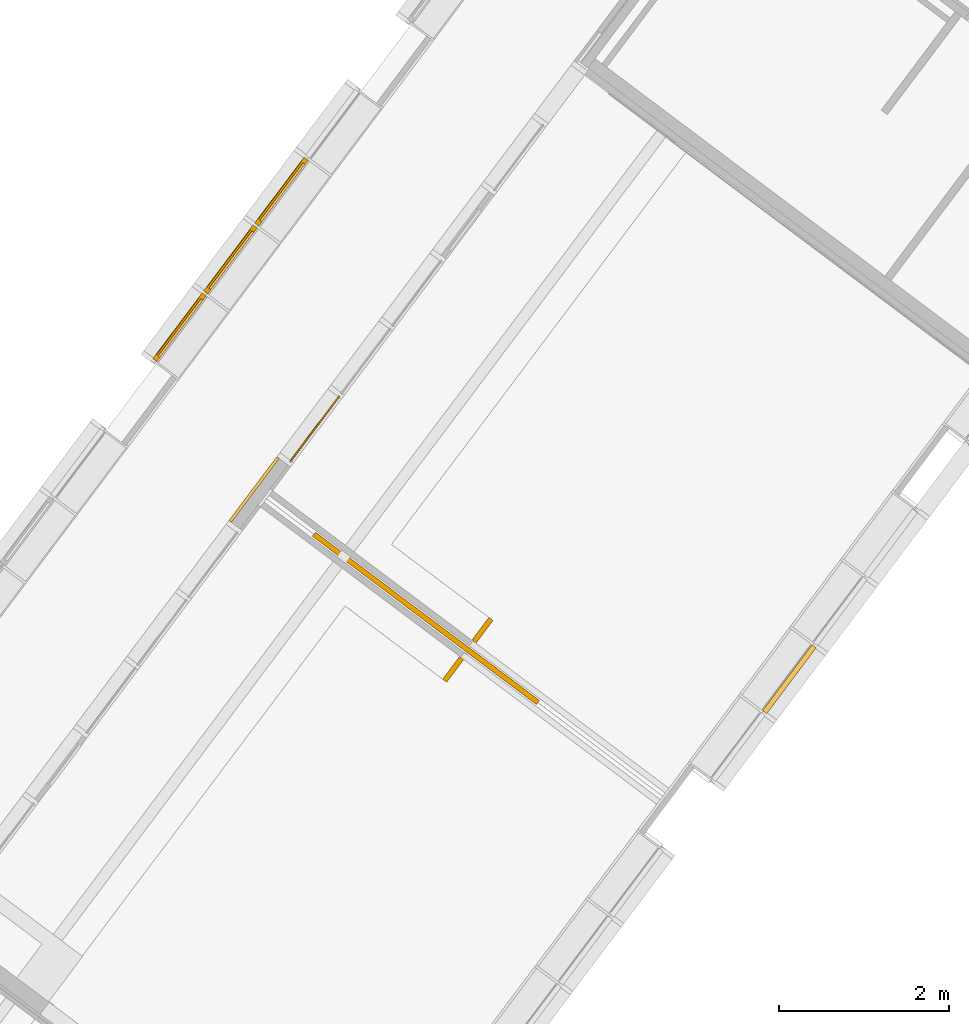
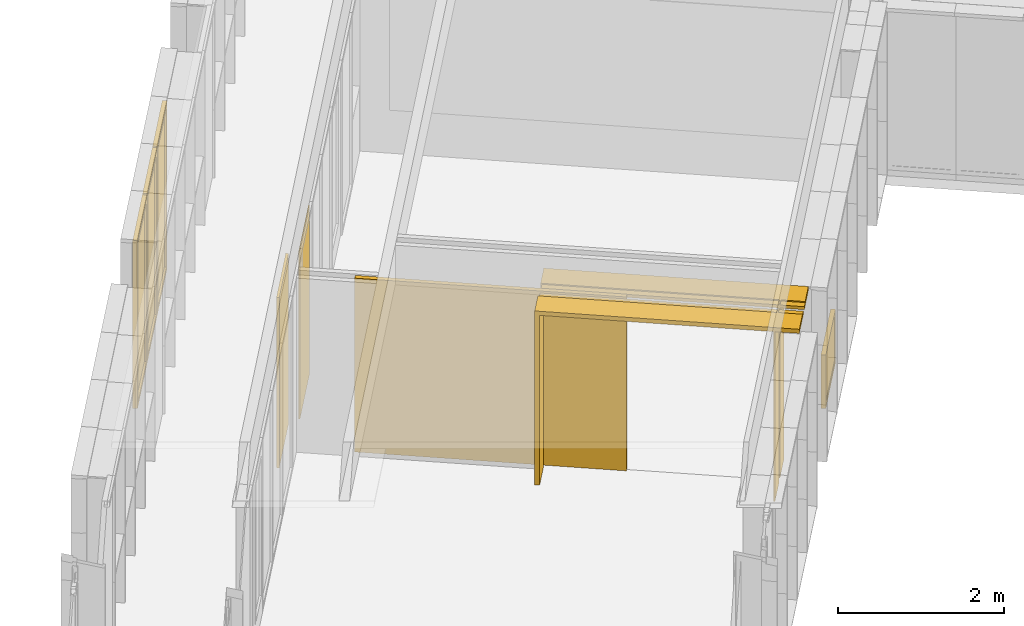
# One storey, part 200 of 243: 5 windows, 1 curtain wall, 1 door, 3 elements without a shape of their own.
"""IFC2X3 building model written with IfcOpenShell, lengths in metres."""

from ifc_helpers import new_model, entity, si_unit, converted_unit, derived_unit, direction, frame, frame_2d, origin, origin_2d_with_axis, place, context, subcontext, project, spatial, rectangle, extrude, faceted_brep, source, transform, mapped, material, material_list, layer, layer_set, layer_usage, type_object, type_shapes, element, aggregate, save


model = new_model("IFC2X3")

# Units and contexts
model_context = context("Model", 3, precision=1e-05, world=origin(), true_north=direction((6.123031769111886e-17, 1.0)))
body_context = subcontext(model_context, "Body", "Model", "MODEL_VIEW")
ifc_project = project(units=[si_unit("LENGTHUNIT", "METRE"), si_unit("AREAUNIT", "SQUARE_METRE"), si_unit("VOLUMEUNIT", "CUBIC_METRE"), converted_unit("PLANEANGLEUNIT", "DEGREE", entity("IfcRatioMeasure", 0.017453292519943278), si_unit("PLANEANGLEUNIT", "RADIAN"), dimensions=[0, 0, 0, 0, 0, 0, 0]), si_unit("MASSUNIT", "GRAM", prefix="KILO"), derived_unit("MASSDENSITYUNIT", [(si_unit("MASSUNIT", "GRAM", prefix="KILO"), 1), (si_unit("LENGTHUNIT", "METRE"), -3)]), derived_unit("IONCONCENTRATIONUNIT", [(si_unit("MASSUNIT", "GRAM", prefix="KILO"), 1), (si_unit("LENGTHUNIT", "METRE"), -3)]), derived_unit("MOMENTOFINERTIAUNIT", [(si_unit("LENGTHUNIT", "METRE"), 4)]), si_unit("TIMEUNIT", "SECOND"), si_unit("FREQUENCYUNIT", "HERTZ"), si_unit("THERMODYNAMICTEMPERATUREUNIT", "DEGREE_CELSIUS"), derived_unit("THERMALTRANSMITTANCEUNIT", [(si_unit("MASSUNIT", "GRAM", prefix="KILO"), 1), (si_unit("THERMODYNAMICTEMPERATUREUNIT", "KELVIN"), -1), (si_unit("TIMEUNIT", "SECOND"), -3)]), derived_unit("THERMALCONDUCTANCEUNIT", [(si_unit("MASSUNIT", "GRAM", prefix="KILO"), 1), (si_unit("THERMODYNAMICTEMPERATUREUNIT", "KELVIN"), -1), (si_unit("TIMEUNIT", "SECOND"), -3), (si_unit("LENGTHUNIT", "METRE"), 1)]), derived_unit("VOLUMETRICFLOWRATEUNIT", [(si_unit("LENGTHUNIT", "METRE"), 3), (si_unit("TIMEUNIT", "SECOND"), -1)]), derived_unit("MASSFLOWRATEUNIT", [(si_unit("MASSUNIT", "GRAM", prefix="KILO"), 1), (si_unit("TIMEUNIT", "SECOND"), -1)]), derived_unit("ROTATIONALFREQUENCYUNIT", [(si_unit("TIMEUNIT", "SECOND"), -1)]), si_unit("ELECTRICCURRENTUNIT", "AMPERE"), si_unit("ELECTRICVOLTAGEUNIT", "VOLT"), si_unit("POWERUNIT", "WATT"), si_unit("FORCEUNIT", "NEWTON", prefix="KILO"), si_unit("ILLUMINANCEUNIT", "LUX"), si_unit("LUMINOUSFLUXUNIT", "LUMEN"), si_unit("LUMINOUSINTENSITYUNIT", "CANDELA"), derived_unit("USERDEFINED", [(si_unit("MASSUNIT", "GRAM", prefix="KILO"), -1), (si_unit("LENGTHUNIT", "METRE"), -2), (si_unit("TIMEUNIT", "SECOND"), 3), (si_unit("LUMINOUSFLUXUNIT", "LUMEN"), 1)]), derived_unit("USERDEFINED", [(si_unit("MASSUNIT", "GRAM", prefix="KILO"), 1), (si_unit("TIMEUNIT", "SECOND"), -3), (si_unit("LENGTHUNIT", "METRE"), 3), (si_unit("ELECTRICCURRENTUNIT", "AMPERE"), -2)]), derived_unit("SOUNDPOWERUNIT", [(si_unit("MASSUNIT", "GRAM", prefix="KILO"), 1), (si_unit("TIMEUNIT", "SECOND"), -3), (si_unit("LENGTHUNIT", "METRE"), 2)]), derived_unit("SOUNDPRESSUREUNIT", [(si_unit("MASSUNIT", "GRAM", prefix="KILO"), 1), (si_unit("LENGTHUNIT", "METRE"), -1), (si_unit("TIMEUNIT", "SECOND"), -2)]), derived_unit("LINEARVELOCITYUNIT", [(si_unit("LENGTHUNIT", "METRE"), 1), (si_unit("TIMEUNIT", "SECOND"), -1)]), si_unit("PRESSUREUNIT", "PASCAL"), derived_unit("USERDEFINED", [(si_unit("MASSUNIT", "GRAM", prefix="KILO"), 1), (si_unit("LENGTHUNIT", "METRE"), -2), (si_unit("TIMEUNIT", "SECOND"), -2)]), derived_unit("LINEARFORCEUNIT", [(si_unit("MASSUNIT", "GRAM", prefix="KILO"), 1), (si_unit("TIMEUNIT", "SECOND"), -2)]), derived_unit("PLANARFORCEUNIT", [(si_unit("MASSUNIT", "GRAM", prefix="KILO"), 1), (si_unit("LENGTHUNIT", "METRE"), -1), (si_unit("TIMEUNIT", "SECOND"), -2)]), derived_unit("SPECIFICHEATCAPACITYUNIT", [(si_unit("THERMODYNAMICTEMPERATUREUNIT", "KELVIN"), -1), (si_unit("LENGTHUNIT", "METRE"), 2), (si_unit("TIMEUNIT", "SECOND"), -2)]), derived_unit("HEATINGVALUEUNIT", [(si_unit("LENGTHUNIT", "METRE"), 2), (si_unit("TIMEUNIT", "SECOND"), -2)]), derived_unit("VAPORPERMEABILITYUNIT", [(si_unit("LENGTHUNIT", "METRE"), -1), (si_unit("TIMEUNIT", "SECOND"), 1)]), derived_unit("DYNAMICVISCOSITYUNIT", [(si_unit("MASSUNIT", "GRAM", prefix="KILO"), 1), (si_unit("TIMEUNIT", "SECOND"), -1), (si_unit("LENGTHUNIT", "METRE"), -1)]), derived_unit("THERMALEXPANSIONCOEFFICIENTUNIT", [(si_unit("THERMODYNAMICTEMPERATUREUNIT", "KELVIN"), -1)]), derived_unit("MODULUSOFELASTICITYUNIT", [(si_unit("MASSUNIT", "GRAM", prefix="KILO"), 1), (si_unit("LENGTHUNIT", "METRE"), -1), (si_unit("TIMEUNIT", "SECOND"), -2)]), derived_unit("ISOTHERMALMOISTURECAPACITYUNIT", [(si_unit("LENGTHUNIT", "METRE"), 3), (si_unit("MASSUNIT", "GRAM", prefix="KILO"), -1)]), derived_unit("MOISTUREDIFFUSIVITYUNIT", [(si_unit("TIMEUNIT", "SECOND"), -1), (si_unit("LENGTHUNIT", "METRE"), 2)])], contexts=[model_context])

# Site, building, storey
site_placement = place(None, frame((0.0, 0.0, 235.0), z_axis=(0.0, 0.0, 1.0), x_axis=(-0.7996477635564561, 0.6004693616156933, 0.0)))
site = spatial("IfcSite", under=ifc_project, at=site_placement, Name="Default", CompositionType="ELEMENT")
building_placement = place(site_placement, origin())
building = spatial("IfcBuilding", under=site, at=building_placement, CompositionType="ELEMENT")
storey_placement = place(building_placement, origin())
storey = spatial("IfcBuildingStorey", under=building, at=storey_placement, Name="P0- Escola", CompositionType="ELEMENT", Elevation=0.0)

# Curtain walls, window
curtain_wall_type_1 = type_object("IfcCurtainWallType", Name="Muro cortina:MC- INT- a1", PredefinedType="NOTDEFINED")
curtain_wall_1_placement = place(storey_placement, origin())
curtain_wall_1 = element("IfcCurtainWall", 1, at=curtain_wall_1_placement, inside=storey, type_object=curtain_wall_type_1, Name="Muro cortina:MC- INT- a1", ObjectType="Muro cortina:MC- INT- a1")
ifc_material_1 = material(Name="_Fusta massisa- T1-  REV- PAV")
ifc_layer_1 = layer(ifc_material_1, 0.015)
ifc_material_2 = material(Name="_Genèric perfils, muntants, rastrells")
ifc_layer_2 = layer(ifc_material_2, 0.02)
ifc_layer_set = layer_set([ifc_layer_1, ifc_layer_2], Name="Muro básico:REV- Fusta- T1- 3,5 cm")
ifc_layer_usage = layer_usage(ifc_layer_set, "AXIS2", "NEGATIVE", 0.0175)
curtain_wall_type_2 = type_object("IfcCurtainWallType", Name="Muro básico:REV- Fusta- T1- 3,5 cm", PredefinedType="NOTDEFINED", material=ifc_layer_set)
curtain_wall_2_placement = place(storey_placement, frame((72.862647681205, -29.445189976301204, 0.0), z_axis=(0.0, 0.0, 1.0), x_axis=(0.0, -1.0, 0.0)))
curtain_wall_2 = element("IfcCurtainWall", 2, at=curtain_wall_2_placement, type_object=curtain_wall_type_2, material=ifc_layer_usage, Name="Muro básico:REV- Fusta- T1- 3,5 cm", ObjectType="Muro básico:REV- Fusta- T1- 3,5 cm", context=body_context, shape_type="SweptSolid", body=[
    extrude(rectangle(XDim=0.03500000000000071, YDim=0.9399999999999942, at=frame_2d((-4.331604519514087e-15, 0.0), x_axis=(1.0, 0.0))), frame((0.4699999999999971, 0.0, 0.0), z_axis=(0.0, 0.0, 1.0), x_axis=(0.0, 1.0, 0.0)), (0.0, 0.0, 1.0), 2.5050000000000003),
])
ifc_material_3 = material(Name="_Vidre")
window_style_1 = type_object("IfcWindowStyle", Name="MC- Fusta- vidre fix:MC- Fusta- vidre fix", ConstructionType="NOTDEFINED", OperationType="NOTDEFINED", ParameterTakesPrecedence=False, Sizeable=False, material=ifc_material_3)
shared_shape_1 = source(origin(), body_context, "Body", "SweptSolid", [
    extrude(rectangle(XDim=0.9699999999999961, YDim=0.015999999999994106, at=origin_2d_with_axis()), frame((0.0, 0.0, 0.0), z_axis=(0.0, 0.0, 1.0), x_axis=(-1.0, 0.0, 0.0)), (0.0, 0.0, 1.0), 2.475),
])
type_shapes(window_style_1, [shared_shape_1])
window_1_placement = place(curtain_wall_1_placement, frame((72.720147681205, -30.915189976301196, 0.045000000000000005), z_axis=(0.0, 0.0, 1.0), x_axis=(0.0, -1.0, 0.0)))
window_1 = element("IfcWindow", 3, at=window_1_placement, type_object=window_style_1, material=ifc_material_3, Name="MC- Fusta- vidre fix:MC- Fusta- vidre fix", ObjectType="MC- Fusta- vidre fix:MC- Fusta- vidre fix", OverallHeight=2.475, OverallWidth=0.9699999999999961, context=body_context, shape_type="MappedRepresentation", body=[
    mapped(shared_shape_1, transform((0.0, 0.0, 0.0), scale=1.0)),
])
aggregate(curtain_wall_1, [curtain_wall_2, window_1])

# Curtain wall, window
curtain_wall_type_3 = type_object("IfcCurtainWallType", Name="Muro cortina:MC- EXT- MC2", PredefinedType="NOTDEFINED")
curtain_wall_3_placement = place(storey_placement, origin())
curtain_wall_3 = element("IfcCurtainWall", 4, at=curtain_wall_3_placement, inside=storey, type_object=curtain_wall_type_3, Name="Muro cortina:MC- EXT- MC2", ObjectType="Muro cortina:MC- EXT- MC2")
ifc_material_4 = material(Name="_Alumini- T1- Perfil")
ifc_material_list_1 = material_list([ifc_material_3, ifc_material_4])
window_style_2 = type_object("IfcWindowStyle", Name="MC- Alu- Conjunt vidre fix- 62x60 cm:MC- Alu- Conjunt vidre fix- 62x60 cm", ConstructionType="NOTDEFINED", OperationType="NOTDEFINED", ParameterTakesPrecedence=False, Sizeable=False, material=ifc_material_list_1)
shared_shape_2 = source(origin(), body_context, "Body", "Brep", [
    faceted_brep([(0.4361932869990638, -0.007600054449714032, 0.048806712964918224), (0.4361932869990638, -0.03160022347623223, 0.048806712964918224), (-0.4361932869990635, -0.03160022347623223, 0.048806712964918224), (-0.4361932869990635, -0.007600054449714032, 0.048806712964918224), (0.4361932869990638, -0.007600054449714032, 0.7387000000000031), (-0.4361932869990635, -0.007600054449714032, 0.7387000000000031), (-0.4361932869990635, -0.03160022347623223, 0.7387000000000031), (0.4361932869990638, -0.03160022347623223, 0.7387000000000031)], [[[0, 1, 2, 3]], [[4, 0, 3, 5]], [[5, 3, 2, 6]], [[6, 2, 1, 7]], [[7, 1, 0, 4]], [[4, 5, 6, 7]]]),
    faceted_brep([(0.48499999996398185, -0.05999999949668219, 0.7877000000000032), (0.48499999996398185, -0.05999999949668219, 0.0), (0.48499999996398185, 0.0, 0.0), (0.48499999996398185, 0.0, 0.787700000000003), (-0.48499999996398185, 0.0, 0.7877000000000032), (-0.48499999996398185, 0.0, 0.0), (0.4221931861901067, 0.0, 0.7248931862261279), (-0.42219318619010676, 0.0, 0.724893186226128), (-0.4221931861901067, 0.0, 0.0628068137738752), (0.4221931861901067, 0.0, 0.06280681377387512), (-0.48499999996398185, -0.05999999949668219, 0.0), (-0.48499999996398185, -0.05999999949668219, 0.7877000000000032), (-0.42219603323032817, -0.05999999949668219, 0.7248960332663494), (0.42219603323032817, -0.05999999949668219, 0.7248960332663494), (0.42219603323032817, -0.05999999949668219, 0.0628039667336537), (-0.42219603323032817, -0.05999999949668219, 0.0628039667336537), (0.4221960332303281, -0.03160022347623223, 0.7248960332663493), (0.42219603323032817, -0.03160022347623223, 0.0628039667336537), (-0.42219603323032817, -0.03160022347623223, 0.06280396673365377), (-0.42219603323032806, -0.03160022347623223, 0.7248960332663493), (-0.43619328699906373, -0.03160022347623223, 0.738893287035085), (0.43619328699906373, -0.03160022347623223, 0.738893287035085), (0.43619328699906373, -0.03160022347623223, 0.048806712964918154), (-0.43619328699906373, -0.03160022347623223, 0.04880671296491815), (0.43619328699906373, -0.007600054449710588, 0.738893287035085), (0.43619328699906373, -0.007600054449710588, 0.04880671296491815), (-0.43619328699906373, -0.007600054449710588, 0.048806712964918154), (-0.43619328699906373, -0.007600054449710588, 0.738893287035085), (-0.42219318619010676, -0.007600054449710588, 0.724893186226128), (0.42219318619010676, -0.007600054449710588, 0.724893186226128), (0.42219318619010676, -0.007600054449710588, 0.06280681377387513), (-0.42219318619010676, -0.007600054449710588, 0.06280681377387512)], [[[0, 1, 2, 3]], [[4, 3, 2, 5], [6, 7, 8, 9]], [[1, 10, 5, 2]], [[0, 11, 10, 1], [12, 13, 14, 15]], [[16, 17, 14, 13]], [[17, 18, 15, 14]], [[16, 19, 18, 17], [20, 21, 22, 23]], [[24, 25, 22, 21]], [[25, 26, 23, 22]], [[24, 27, 26, 25], [28, 29, 30, 31]], [[6, 9, 30, 29]], [[9, 8, 31, 30]], [[10, 11, 4, 5]], [[18, 19, 12, 15]], [[26, 27, 20, 23]], [[8, 7, 28, 31]], [[11, 0, 3, 4]], [[19, 16, 13, 12]], [[27, 24, 21, 20]], [[7, 6, 29, 28]]], outer=[[True], [True, False], [True], [True, False], [True], [True], [False, True], [True], [True], [True, False], [True], [True], [True], [True], [True], [True], [True], [True], [True], [True]]),
])
type_shapes(window_style_2, [shared_shape_2])
window_2_placement = place(curtain_wall_3_placement, frame((66.44514768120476, -31.915191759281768, 0.03229999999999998), z_axis=(0.0, 0.0, 1.0), x_axis=(0.0, 1.0, 0.0)))
window_2 = element("IfcWindow", 5, at=window_2_placement, type_object=window_style_2, material=ifc_material_list_1, Name="MC- Alu- Conjunt vidre fix- 62x60 cm:MC- Alu- Conjunt vidre fix- 62x60 cm", ObjectType="MC- Alu- Conjunt vidre fix- 62x60 cm:MC- Alu- Conjunt vidre fix- 62x60 cm", OverallHeight=0.7877000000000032, OverallWidth=0.9699999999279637, context=body_context, shape_type="MappedRepresentation", body=[
    mapped(shared_shape_2, transform((0.0, 0.0, 0.0), scale=1.0)),
])
aggregate(curtain_wall_3, [window_2])

# Curtain wall, windows
curtain_wall_type_4 = type_object("IfcCurtainWallType", Name="Muro cortina:MC- EXT- MC5", PredefinedType="NOTDEFINED")
curtain_wall_4_placement = place(storey_placement, origin())
curtain_wall_4 = element("IfcCurtainWall", 6, at=curtain_wall_4_placement, inside=storey, type_object=curtain_wall_type_4, Name="Muro cortina:MC- EXT- MC5", ObjectType="Muro cortina:MC- EXT- MC5")
window_style_3 = type_object("IfcWindowStyle", Name="MC- Alu- Conjunt vidre fix- 62x60 cm:MC- Alu- Conjunt vidre fix- 62x60 cm", ConstructionType="NOTDEFINED", OperationType="NOTDEFINED", ParameterTakesPrecedence=False, Sizeable=False, material=ifc_material_list_1)
shared_shape_3 = source(origin(), body_context, "Body", "Brep", [
    faceted_brep([(-0.43619328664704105, -0.007600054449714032, 0.048806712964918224), (0.43619328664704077, -0.007600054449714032, 0.048806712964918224), (0.43619328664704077, -0.03160022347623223, 0.048806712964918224), (-0.43619328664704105, -0.03160022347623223, 0.048806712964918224), (-0.43619328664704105, -0.007600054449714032, 2.422449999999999), (0.43619328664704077, -0.007600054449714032, 2.422449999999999), (0.43619328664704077, -0.03160022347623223, 2.422449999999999), (-0.43619328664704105, -0.03160022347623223, 2.422449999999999)], [[[0, 1, 2, 3]], [[4, 5, 1, 0]], [[5, 6, 2, 1]], [[6, 7, 3, 2]], [[7, 4, 0, 3]], [[4, 7, 6, 5]]]),
    faceted_brep([(-0.4849999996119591, -0.05999999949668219, 2.471449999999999), (-0.4849999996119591, 0.0, 2.471449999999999), (-0.4849999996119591, 0.0, 0.0), (-0.48499999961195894, -0.05999999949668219, 0.0), (-0.4221931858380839, 0.0, 2.408643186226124), (-0.4221931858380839, 0.0, 0.06280681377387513), (0.42219318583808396, 0.0, 0.06280681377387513), (0.422193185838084, 0.0, 2.408643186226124), (0.4849999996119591, 0.0, 2.471449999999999), (0.4849999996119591, 0.0, 0.0), (0.48499999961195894, -0.05999999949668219, 0.0), (0.4849999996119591, -0.05999999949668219, 2.471449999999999), (0.42219603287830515, -0.05999999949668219, 2.408646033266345), (0.42219603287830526, -0.05999999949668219, 0.06280396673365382), (-0.42219603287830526, -0.05999999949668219, 0.06280396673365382), (-0.42219603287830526, -0.05999999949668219, 2.4086460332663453), (-0.42219603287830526, -0.03160022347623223, 2.4086460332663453), (-0.4221960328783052, -0.03160022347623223, 0.06280396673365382), (0.4221960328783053, -0.03160022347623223, 0.06280396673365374), (0.42219603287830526, -0.03160022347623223, 2.4086460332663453), (0.43619328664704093, -0.03160022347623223, 2.422643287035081), (0.43619328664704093, -0.03160022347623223, 0.048806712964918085), (-0.4361932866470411, -0.03160022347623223, 0.04880671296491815), (-0.43619328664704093, -0.03160022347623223, 2.422643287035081), (-0.43619328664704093, -0.007600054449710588, 2.422643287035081), (-0.4361932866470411, -0.007600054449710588, 0.04880671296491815), (0.43619328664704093, -0.007600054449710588, 0.048806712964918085), (0.43619328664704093, -0.007600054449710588, 2.422643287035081), (0.42219318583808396, -0.007600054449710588, 2.408643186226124), (0.42219318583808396, -0.007600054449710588, 0.06280681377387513), (-0.42219318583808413, -0.007600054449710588, 0.06280681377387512), (-0.4221931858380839, -0.007600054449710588, 2.408643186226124)], [[[0, 1, 2, 3]], [[4, 5, 6, 7], [8, 9, 2, 1]], [[3, 2, 9, 10]], [[0, 3, 10, 11], [12, 13, 14, 15]], [[16, 15, 14, 17]], [[17, 14, 13, 18]], [[16, 17, 18, 19], [20, 21, 22, 23]], [[24, 23, 22, 25]], [[25, 22, 21, 26]], [[24, 25, 26, 27], [28, 29, 30, 31]], [[4, 31, 30, 5]], [[5, 30, 29, 6]], [[10, 9, 8, 11]], [[18, 13, 12, 19]], [[26, 21, 20, 27]], [[6, 29, 28, 7]], [[11, 8, 1, 0]], [[19, 12, 15, 16]], [[27, 20, 23, 24]], [[7, 28, 31, 4]]], outer=[[True], [False, True], [True], [True, False], [True], [True], [False, True], [True], [True], [True, False], [True], [True], [True], [True], [True], [True], [True], [True], [True], [True]]),
])
type_shapes(window_style_3, [shared_shape_3])
window_3_placement = place(curtain_wall_4_placement, frame((74.74514768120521, -31.915191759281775, 0.03229999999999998), z_axis=(0.0, 0.0, 1.0), x_axis=(0.0, -1.0, 0.0)))
window_3 = element("IfcWindow", 7, at=window_3_placement, type_object=window_style_3, material=ifc_material_list_1, Name="MC- Alu- Conjunt vidre fix- 62x60 cm:MC- Alu- Conjunt vidre fix- 62x60 cm", ObjectType="MC- Alu- Conjunt vidre fix- 62x60 cm:MC- Alu- Conjunt vidre fix- 62x60 cm", OverallHeight=2.471449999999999, OverallWidth=0.9699999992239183, context=body_context, shape_type="MappedRepresentation", body=[
    mapped(shared_shape_3, transform((0.0, 0.0, 0.0), scale=1.0)),
])
window_4_placement = place(curtain_wall_4_placement, frame((74.74514768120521, -32.91519175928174, 0.03229999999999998), z_axis=(0.0, 0.0, 1.0), x_axis=(0.0, -1.0, 0.0)))
window_4 = element("IfcWindow", 8, at=window_4_placement, type_object=window_style_3, material=ifc_material_list_1, Name="MC- Alu- Conjunt vidre fix- 62x60 cm:MC- Alu- Conjunt vidre fix- 62x60 cm", ObjectType="MC- Alu- Conjunt vidre fix- 62x60 cm:MC- Alu- Conjunt vidre fix- 62x60 cm", OverallHeight=2.471449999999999, OverallWidth=0.9699999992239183, context=body_context, shape_type="MappedRepresentation", body=[
    mapped(shared_shape_3, transform((0.0, 0.0, 0.0), scale=1.0)),
])
window_style_4 = type_object("IfcWindowStyle", Name="MC- Alu- Conjunt vidre fix- 62x60 cm:MC- Alu- Conjunt vidre fix- 62x60 cm", ConstructionType="NOTDEFINED", OperationType="NOTDEFINED", ParameterTakesPrecedence=False, Sizeable=False, material=ifc_material_list_1)
shared_shape_4 = source(origin(), body_context, "Body", "Brep", [
    faceted_brep([(0.43619328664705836, -0.007600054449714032, 0.048806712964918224), (0.43619328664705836, -0.03160022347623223, 0.048806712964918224), (-0.4361932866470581, -0.03160022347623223, 0.048806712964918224), (-0.4361932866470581, -0.007600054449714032, 0.048806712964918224), (0.43619328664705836, -0.007600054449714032, 2.422449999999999), (-0.4361932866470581, -0.007600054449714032, 2.422449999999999), (-0.4361932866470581, -0.03160022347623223, 2.422449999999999), (0.43619328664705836, -0.03160022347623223, 2.422449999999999)], [[[0, 1, 2, 3]], [[4, 0, 3, 5]], [[5, 3, 2, 6]], [[6, 2, 1, 7]], [[7, 1, 0, 4]], [[4, 5, 6, 7]]]),
    faceted_brep([(0.48499999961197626, -0.05999999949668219, 2.471449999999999), (0.48499999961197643, -0.05999999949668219, 0.0), (0.48499999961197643, 0.0, 0.0), (0.48499999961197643, 0.0, 2.471449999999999), (-0.48499999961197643, 0.0, 2.471449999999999), (-0.48499999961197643, 0.0, 0.0), (0.4221931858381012, 0.0, 2.408643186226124), (-0.4221931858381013, 0.0, 2.408643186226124), (-0.4221931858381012, 0.0, 0.06280681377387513), (0.4221931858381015, 0.0, 0.06280681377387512), (-0.48499999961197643, -0.05999999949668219, 0.0), (-0.4849999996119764, -0.05999999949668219, 2.471449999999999), (-0.4221960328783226, -0.05999999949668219, 2.4086460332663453), (0.4221960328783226, -0.05999999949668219, 2.4086460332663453), (0.4221960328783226, -0.05999999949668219, 0.06280396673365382), (-0.4221960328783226, -0.05999999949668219, 0.06280396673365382), (0.42219603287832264, -0.03160022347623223, 2.4086460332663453), (0.4221960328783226, -0.03160022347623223, 0.06280396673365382), (-0.4221960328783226, -0.03160022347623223, 0.06280396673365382), (-0.4221960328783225, -0.03160022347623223, 2.4086460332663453), (-0.43619328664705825, -0.03160022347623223, 2.422643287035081), (0.43619328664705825, -0.03160022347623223, 2.422643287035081), (0.43619328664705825, -0.03160022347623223, 0.048806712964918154), (-0.43619328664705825, -0.03160022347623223, 0.04880671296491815), (0.43619328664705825, -0.007600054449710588, 2.422643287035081), (0.4361932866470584, -0.007600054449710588, 0.04880671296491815), (-0.43619328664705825, -0.007600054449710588, 0.048806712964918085), (-0.43619328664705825, -0.007600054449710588, 2.422643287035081), (-0.4221931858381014, -0.007600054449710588, 2.408643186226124), (0.4221931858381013, -0.007600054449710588, 2.408643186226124), (0.4221931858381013, -0.007600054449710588, 0.06280681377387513), (-0.4221931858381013, -0.007600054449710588, 0.06280681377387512)], [[[0, 1, 2, 3]], [[4, 3, 2, 5], [6, 7, 8, 9]], [[1, 10, 5, 2]], [[0, 11, 10, 1], [12, 13, 14, 15]], [[16, 17, 14, 13]], [[17, 18, 15, 14]], [[16, 19, 18, 17], [20, 21, 22, 23]], [[24, 25, 22, 21]], [[25, 26, 23, 22]], [[24, 27, 26, 25], [28, 29, 30, 31]], [[6, 9, 30, 29]], [[9, 8, 31, 30]], [[10, 11, 4, 5]], [[18, 19, 12, 15]], [[26, 27, 20, 23]], [[8, 7, 28, 31]], [[11, 0, 3, 4]], [[19, 16, 13, 12]], [[27, 24, 21, 20]], [[7, 6, 29, 28]]], outer=[[True], [True, False], [True], [True, False], [True], [True], [False, True], [True], [True], [True, False], [True], [True], [True], [True], [True], [True], [True], [True], [True], [True]]),
])
type_shapes(window_style_4, [shared_shape_4])
window_5_placement = place(curtain_wall_4_placement, frame((74.74514768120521, -30.915191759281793, 0.03229999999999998), z_axis=(0.0, 0.0, 1.0), x_axis=(0.0, -1.0, 0.0)))
window_5 = element("IfcWindow", 9, at=window_5_placement, type_object=window_style_4, material=ifc_material_list_1, Name="MC- Alu- Conjunt vidre fix- 62x60 cm:MC- Alu- Conjunt vidre fix- 62x60 cm", ObjectType="MC- Alu- Conjunt vidre fix- 62x60 cm:MC- Alu- Conjunt vidre fix- 62x60 cm", OverallHeight=2.471449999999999, OverallWidth=0.969999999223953, context=body_context, shape_type="MappedRepresentation", body=[
    mapped(shared_shape_4, transform((0.0, 0.0, 0.0), scale=1.0)),
])
aggregate(curtain_wall_4, [window_5, window_3, window_4])

# Door
ifc_material_5 = material(Name="_Fusta massisa- T1")
ifc_material_list_2 = material_list([ifc_material_2, ifc_material_5])
door_style = type_object("IfcDoorStyle", Name="FUS- Fusta- Porta corredera aules:FUS- Fusta- Porta corredera aules", ConstructionType="NOTDEFINED", OperationType="NOTDEFINED", ParameterTakesPrecedence=False, Sizeable=False, material=ifc_material_list_2)
shared_shape_5 = source(origin(), body_context, "Body", "Brep", [
    faceted_brep([(1.0619099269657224, 0.022981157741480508, 2.560000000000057), (-2.2396091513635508, 0.022981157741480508, 2.560000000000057), (-2.239609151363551, -0.022981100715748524, 2.560000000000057), (1.0619099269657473, -0.022981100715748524, 2.560000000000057), (1.0619099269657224, 0.022981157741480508, 0.0), (1.0619099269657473, -0.022981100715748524, 0.0), (-2.239609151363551, -0.022981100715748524, 0.0), (-2.2396091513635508, 0.022981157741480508, 0.0)], [[[0, 1, 2, 3]], [[4, 5, 6, 7]], [[1, 0, 4, 7]], [[2, 1, 7, 6]], [[3, 2, 6, 5]], [[0, 3, 5, 4]]]),
    faceted_brep([(1.0619099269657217, 0.022981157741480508, 2.560000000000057), (1.061909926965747, 0.029981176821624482, 2.560000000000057), (-2.2396091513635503, 0.029981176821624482, 2.560000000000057), (-2.2396091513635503, 0.022981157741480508, 2.560000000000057), (1.0619099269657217, 0.022981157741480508, 0.0), (-2.2396091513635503, 0.022981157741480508, 0.0), (-2.2396091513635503, 0.029981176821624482, 0.0), (1.061909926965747, 0.029981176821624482, 0.0)], [[[0, 1, 2, 3]], [[4, 5, 6, 7]], [[1, 0, 4, 7]], [[2, 1, 7, 6]], [[3, 2, 6, 5]], [[0, 3, 5, 4]]]),
    faceted_brep([(1.0619099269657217, -0.029981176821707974, 2.560000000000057), (1.061909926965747, -0.022981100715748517, 2.560000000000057), (-2.239609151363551, -0.022981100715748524, 2.560000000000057), (-2.239609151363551, -0.029981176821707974, 2.560000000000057), (1.0619099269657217, -0.029981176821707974, 0.0), (-2.239609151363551, -0.029981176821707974, 0.0), (-2.239609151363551, -0.022981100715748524, 0.0), (1.061909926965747, -0.022981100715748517, 0.0)], [[[0, 1, 2, 3]], [[4, 5, 6, 7]], [[1, 0, 4, 7]], [[2, 1, 7, 6]], [[3, 2, 6, 5]], [[0, 3, 5, 4]]]),
    faceted_brep([(2.9200000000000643, 0.04799999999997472, 0.0), (2.9040000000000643, 0.04799999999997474, 0.0), (2.9040000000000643, 0.4539999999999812, 0.0), (2.9200000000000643, 0.4539999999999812, 0.0), (2.9200000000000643, 0.04799999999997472, 2.5600000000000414), (2.9040000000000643, 0.04799999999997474, 2.5600000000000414), (2.9040000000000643, 0.4539999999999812, 2.5600000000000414), (2.9200000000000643, 0.4539999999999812, 2.5600000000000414)], [[[0, 1, 2, 3]], [[4, 5, 1, 0]], [[5, 6, 2, 1]], [[6, 7, 3, 2]], [[7, 4, 0, 3]], [[4, 7, 6, 5]]]),
    faceted_brep([(2.9200000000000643, -0.04799999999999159, 2.5600000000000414), (2.9200000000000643, -0.45400000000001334, 2.5600000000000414), (2.9200000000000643, -0.45400000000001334, 0.0), (2.9200000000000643, -0.04799999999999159, 0.0), (2.9040000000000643, -0.45400000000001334, 2.5600000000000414), (2.9040000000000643, -0.45400000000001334, 0.0), (2.9040000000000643, -0.04799999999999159, 2.5600000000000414), (2.9040000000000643, -0.04799999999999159, 0.0)], [[[0, 1, 2, 3]], [[1, 4, 5, 2]], [[4, 6, 7, 5]], [[6, 0, 3, 7]], [[0, 6, 4, 1]], [[3, 2, 5, 7]]]),
    faceted_brep([(0.0, -0.4540000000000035, 0.0), (0.0, -0.1340000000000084, 0.0), (0.016000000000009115, -0.13400000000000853, 0.0), (0.01600000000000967, -0.047999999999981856, 0.0), (0.060000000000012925, -0.047999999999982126, 0.0), (0.0600000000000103, -0.45400000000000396, 0.0), (0.0, -0.4540000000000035, 2.559999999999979), (0.0, -0.1340000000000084, 2.5599999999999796), (3.2150000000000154, -0.1340000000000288, 2.559999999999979), (3.2150000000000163, -0.13400000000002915, 2.5439999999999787), (0.01600000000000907, -0.13400000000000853, 2.543999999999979), (0.016000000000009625, -0.04799999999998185, 2.543999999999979), (3.215000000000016, -0.048000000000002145, 2.5439999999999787), (3.2150000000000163, -0.04800000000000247, 2.4999999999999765), (0.06000000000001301, -0.04799999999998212, 2.499999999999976), (0.06000000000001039, -0.45400000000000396, 2.499999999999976), (3.215000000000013, -0.45400000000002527, 2.4999999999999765), (3.2150000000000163, -0.45400000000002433, 2.559999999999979)], [[[0, 1, 2, 3, 4, 5]], [[1, 0, 6, 7]], [[2, 1, 7, 8, 9, 10]], [[3, 2, 10, 11]], [[4, 3, 11, 12, 13, 14]], [[5, 4, 14, 15]], [[0, 5, 15, 16, 17, 6]], [[17, 16, 13, 12, 9, 8]], [[15, 14, 13, 16]], [[11, 10, 9, 12]], [[7, 6, 17, 8]]]),
    faceted_brep([(0.06000000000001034, 0.45399999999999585, 0.0), (0.0, 0.4539999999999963, 0.0), (0.0, 0.4539999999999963, 2.5599999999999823), (3.215000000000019, 0.4539999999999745, 2.559999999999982), (3.2150000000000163, 0.4539999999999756, 2.499999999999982), (0.0600000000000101, 0.453999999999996, 2.499999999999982), (0.060000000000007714, 0.047999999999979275, 0.0), (0.06000000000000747, 0.047999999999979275, 2.4999999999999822), (0.016000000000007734, 0.04799999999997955, 0.0), (3.2150000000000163, 0.047999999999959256, 2.4999999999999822), (3.2150000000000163, 0.04799999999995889, 2.5439999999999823), (0.01600000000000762, 0.047999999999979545, 2.5439999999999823), (0.016000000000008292, 0.1339999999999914, 0.0), (0.016000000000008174, 0.1339999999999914, 2.5439999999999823), (0.0, 0.1339999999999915, 0.0), (3.2150000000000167, 0.1339999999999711, 2.5439999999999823), (3.2150000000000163, 0.13399999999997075, 2.5599999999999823), (0.0, 0.13399999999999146, 2.559999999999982)], [[[0, 1, 2, 3, 4, 5]], [[6, 0, 5, 7]], [[8, 6, 7, 9, 10, 11]], [[12, 8, 11, 13]], [[14, 12, 13, 15, 16, 17]], [[1, 14, 17, 2]], [[2, 17, 16, 3]], [[13, 11, 10, 15]], [[7, 5, 4, 9]], [[3, 16, 15, 10, 9, 4]], [[1, 0, 6, 8, 12, 14]]]),
])
type_shapes(door_style, [shared_shape_5])
door_placement = place(storey_placement, frame((69.74414768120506, -29.91618997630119, 0.0), z_axis=(0.0, 0.0, 1.0), x_axis=(-1.0, 0.0, 0.0)))
element("IfcDoor", 10, at=door_placement, inside=storey, type_object=door_style, material=ifc_material_list_2, Name="FUS- Fusta- Porta corredera aules:FUS- Fusta- Porta corredera aules", ObjectType="FUS- Fusta- Porta corredera aules:FUS- Fusta- Porta corredera aules", OverallHeight=2.5600000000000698, OverallWidth=5.48160915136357, context=body_context, shape_type="MappedRepresentation", body=[
    mapped(shared_shape_5, transform((0.0, 0.0, 0.0), scale=1.0)),
])

save(model, "model.ifc")
